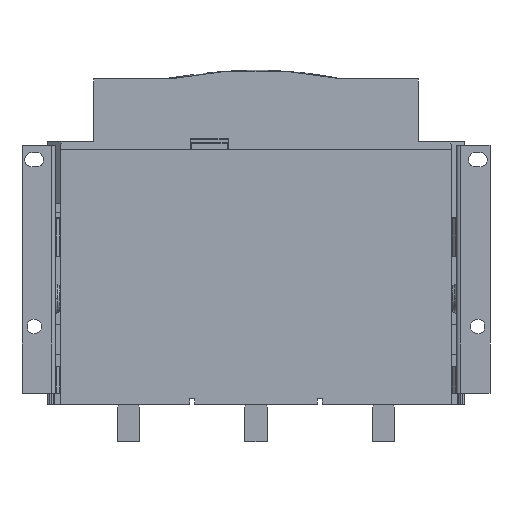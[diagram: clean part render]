
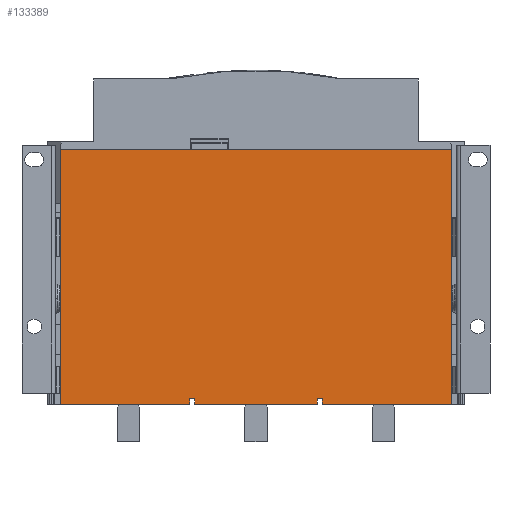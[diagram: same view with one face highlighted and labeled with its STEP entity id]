
A CAD part, front view. The second image highlights one B-rep face of the part: STEP entity #133389.
In plain terms, the highlighted planar face has unit normal (0, -1, 0).
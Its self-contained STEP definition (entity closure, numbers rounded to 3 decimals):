
#7449 = DIRECTION ( 'NONE',  ( 0., 0., -1. ) ) ;
#8427 = VERTEX_POINT ( 'NONE', #49513 ) ;
#13406 = VERTEX_POINT ( 'NONE', #123229 ) ;
#14380 = CARTESIAN_POINT ( 'NONE',  ( -114.028, 79.913, 202.614 ) ) ;
#16100 = DIRECTION ( 'NONE',  ( 0., 0., -1. ) ) ;
#17067 = ORIENTED_EDGE ( 'NONE', *, *, #105401, .F. ) ;
#18352 = VECTOR ( 'NONE', #28473, 1000. ) ;
#19361 = CARTESIAN_POINT ( 'NONE',  ( 233.972, 79.913, 202.614 ) ) ;
#22481 = CARTESIAN_POINT ( 'NONE',  ( -117.028, 79.913, 431.614 ) ) ;
#23651 = EDGE_CURVE ( 'NONE', #142710, #91958, #32159, .T. ) ;
#23915 = DIRECTION ( 'NONE',  ( 0., 0., -1. ) ) ;
#24385 = CARTESIAN_POINT ( 'NONE',  ( 233.972, 79.913, 431.614 ) ) ;
#25609 = ORIENTED_EDGE ( 'NONE', *, *, #23651, .T. ) ;
#26851 = FACE_OUTER_BOUND ( 'NONE', #117705, .T. ) ;
#27480 = CARTESIAN_POINT ( 'NONE',  ( -114.028, 79.913, 207.614 ) ) ;
#27879 = CARTESIAN_POINT ( 'NONE',  ( 3.222, 79.913, 202.614 ) ) ;
#27930 = EDGE_CURVE ( 'NONE', #137351, #144342, #42275, .T. ) ;
#28034 = LINE ( 'NONE', #69838, #84601 ) ;
#28473 = DIRECTION ( 'NONE',  ( -1., 0., 0. ) ) ;
#28869 = VERTEX_POINT ( 'NONE', #123864 ) ;
#31641 = EDGE_CURVE ( 'NONE', #66334, #73764, #37803, .T. ) ;
#31763 = LINE ( 'NONE', #52399, #72480 ) ;
#32159 = LINE ( 'NONE', #34097, #49872 ) ;
#32863 = CARTESIAN_POINT ( 'NONE',  ( 58.472, 79.913, 309.114 ) ) ;
#34097 = CARTESIAN_POINT ( 'NONE',  ( -117.028, 79.913, 431.614 ) ) ;
#37383 = CARTESIAN_POINT ( 'NONE',  ( 113.722, 79.913, 207.614 ) ) ;
#37803 = LINE ( 'NONE', #96279, #41378 ) ;
#38036 = DIRECTION ( 'NONE',  ( 1., 0., 0. ) ) ;
#39166 = EDGE_CURVE ( 'NONE', #28869, #81326, #31763, .T. ) ;
#39847 = LINE ( 'NONE', #127272, #50515 ) ;
#41378 = VECTOR ( 'NONE', #50785, 1000. ) ;
#41927 = ORIENTED_EDGE ( 'NONE', *, *, #98540, .F. ) ;
#42275 = LINE ( 'NONE', #138430, #111253 ) ;
#47158 = ORIENTED_EDGE ( 'NONE', *, *, #31641, .T. ) ;
#49513 = CARTESIAN_POINT ( 'NONE',  ( 118.222, 79.913, 207.614 ) ) ;
#49872 = VECTOR ( 'NONE', #79586, 1000. ) ;
#50515 = VECTOR ( 'NONE', #16100, 1000. ) ;
#50785 = DIRECTION ( 'NONE',  ( 1., 0., 0. ) ) ;
#52399 = CARTESIAN_POINT ( 'NONE',  ( 3.222, 79.913, 207.614 ) ) ;
#53436 = DIRECTION ( 'NONE',  ( 0., 0., -1. ) ) ;
#54613 = VERTEX_POINT ( 'NONE', #37383 ) ;
#55565 = VECTOR ( 'NONE', #53436, 1000. ) ;
#59027 = LINE ( 'NONE', #27480, #18352 ) ;
#60895 = CARTESIAN_POINT ( 'NONE',  ( -1.278, 79.913, 202.614 ) ) ;
#66334 = VERTEX_POINT ( 'NONE', #115739 ) ;
#66531 = EDGE_CURVE ( 'NONE', #8427, #66334, #85620, .T. ) ;
#67031 = ORIENTED_EDGE ( 'NONE', *, *, #39166, .T. ) ;
#67473 = DIRECTION ( 'NONE',  ( 0., 1., 0. ) ) ;
#69404 = VECTOR ( 'NONE', #101666, 1000. ) ;
#69838 = CARTESIAN_POINT ( 'NONE',  ( -1.278, 79.913, 207.614 ) ) ;
#72124 = CARTESIAN_POINT ( 'NONE',  ( -1.278, 79.913, 207.614 ) ) ;
#72480 = VECTOR ( 'NONE', #142782, 1000. ) ;
#73764 = VERTEX_POINT ( 'NONE', #19361 ) ;
#74238 = VECTOR ( 'NONE', #7449, 1000. ) ;
#75917 = LINE ( 'NONE', #143329, #74238 ) ;
#76712 = LINE ( 'NONE', #14380, #103245 ) ;
#79079 = VECTOR ( 'NONE', #93367, 1000. ) ;
#79101 = VERTEX_POINT ( 'NONE', #72124 ) ;
#79586 = DIRECTION ( 'NONE',  ( -1., 0., 0. ) ) ;
#79920 = CARTESIAN_POINT ( 'NONE',  ( -114.028, 79.913, 207.614 ) ) ;
#81326 = VERTEX_POINT ( 'NONE', #27879 ) ;
#81580 = DIRECTION ( 'NONE',  ( 1., 0., 0. ) ) ;
#81976 = CARTESIAN_POINT ( 'NONE',  ( -117.028, 79.913, 322.614 ) ) ;
#84601 = VECTOR ( 'NONE', #23915, 1000. ) ;
#85620 = LINE ( 'NONE', #87525, #55565 ) ;
#87525 = CARTESIAN_POINT ( 'NONE',  ( 118.222, 79.913, 207.614 ) ) ;
#88216 = AXIS2_PLACEMENT_3D ( 'NONE', #32863, #67473, #134696 ) ;
#91958 = VERTEX_POINT ( 'NONE', #22481 ) ;
#93367 = DIRECTION ( 'NONE',  ( 0., 0., -1. ) ) ;
#96279 = CARTESIAN_POINT ( 'NONE',  ( -114.028, 79.913, 202.614 ) ) ;
#97281 = EDGE_CURVE ( 'NONE', #8427, #54613, #129548, .T. ) ;
#98512 = LINE ( 'NONE', #81976, #79079 ) ;
#98540 = EDGE_CURVE ( 'NONE', #79101, #144342, #28034, .T. ) ;
#99156 = EDGE_CURVE ( 'NONE', #91958, #137351, #98512, .T. ) ;
#100584 = PLANE ( 'NONE',  #88216 ) ;
#101666 = DIRECTION ( 'NONE',  ( -1., 0., 0. ) ) ;
#102662 = EDGE_CURVE ( 'NONE', #142710, #73764, #39847, .T. ) ;
#102818 = ORIENTED_EDGE ( 'NONE', *, *, #102662, .F. ) ;
#103245 = VECTOR ( 'NONE', #81580, 1000. ) ;
#104916 = ORIENTED_EDGE ( 'NONE', *, *, #99156, .T. ) ;
#105401 = EDGE_CURVE ( 'NONE', #54613, #13406, #75917, .T. ) ;
#111253 = VECTOR ( 'NONE', #38036, 1000. ) ;
#112666 = ORIENTED_EDGE ( 'NONE', *, *, #97281, .F. ) ;
#113201 = ORIENTED_EDGE ( 'NONE', *, *, #122661, .F. ) ;
#113522 = ORIENTED_EDGE ( 'NONE', *, *, #66531, .T. ) ;
#115739 = CARTESIAN_POINT ( 'NONE',  ( 118.222, 79.913, 202.614 ) ) ;
#117705 = EDGE_LOOP ( 'NONE', ( #47158, #102818, #25609, #104916, #130008, #41927, #113201, #67031, #125213, #17067, #112666, #113522 ) ) ;
#122661 = EDGE_CURVE ( 'NONE', #28869, #79101, #59027, .T. ) ;
#123229 = CARTESIAN_POINT ( 'NONE',  ( 113.722, 79.913, 202.614 ) ) ;
#123864 = CARTESIAN_POINT ( 'NONE',  ( 3.222, 79.913, 207.614 ) ) ;
#125213 = ORIENTED_EDGE ( 'NONE', *, *, #128822, .T. ) ;
#127272 = CARTESIAN_POINT ( 'NONE',  ( 233.972, 79.913, 309.114 ) ) ;
#128822 = EDGE_CURVE ( 'NONE', #81326, #13406, #76712, .T. ) ;
#129548 = LINE ( 'NONE', #79920, #69404 ) ;
#130008 = ORIENTED_EDGE ( 'NONE', *, *, #27930, .T. ) ;
#133389 = ADVANCED_FACE ( 'NONE', ( #26851 ), #100584, .F. ) ;
#134696 = DIRECTION ( 'NONE',  ( 1., 0., 0. ) ) ;
#137351 = VERTEX_POINT ( 'NONE', #140984 ) ;
#138430 = CARTESIAN_POINT ( 'NONE',  ( -114.028, 79.913, 202.614 ) ) ;
#140984 = CARTESIAN_POINT ( 'NONE',  ( -117.028, 79.913, 202.614 ) ) ;
#142710 = VERTEX_POINT ( 'NONE', #24385 ) ;
#142782 = DIRECTION ( 'NONE',  ( 0., 0., -1. ) ) ;
#143329 = CARTESIAN_POINT ( 'NONE',  ( 113.722, 79.913, 207.614 ) ) ;
#144342 = VERTEX_POINT ( 'NONE', #60895 ) ;
